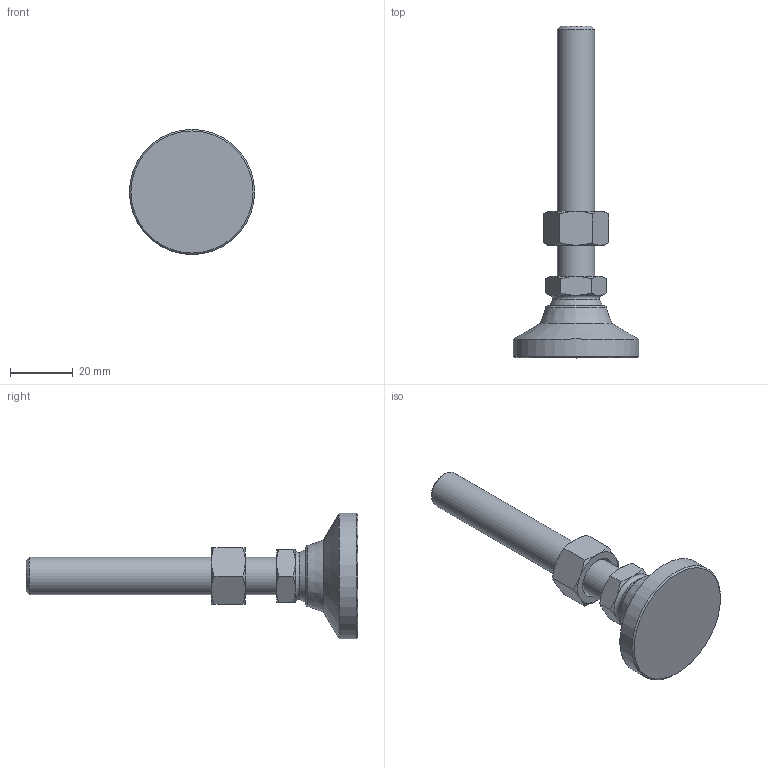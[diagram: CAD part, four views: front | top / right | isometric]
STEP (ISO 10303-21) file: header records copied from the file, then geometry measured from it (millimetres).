
FILE_DESCRIPTION( ( 'STEP AP214' ), ' ' );
FILE_NAME( 'O:/ganter_2015/teil_2/2_5/gn343_2/gn343_2_os/Levelling foot with threaded stud GN 343.2-40-M12-80-OS-(0).stp', '2015-10-26T09:07:31', ( '' ), ( '' ), ' ', 'PARTsolutions', ' ' );
FILE_SCHEMA( ( 'AUTOMOTIVE_DESIGN { 1 0 10303 214 1 1 1 1 }' ) );
Length unit declared in the file: millimetre
Products named in the file (4): Levelling foot with threaded stud GN 343.2-40-M12-80-OS-(0); _Levelling foot with threaded stud GN 343.2-40-M12-80-OS-(0)_foot; _Levelling foot with threaded stud GN 343.2-40-M12-80-OS-(0)_screw; _Stainless Steel-Levelling feet GN 343.2-40-M12-80-OS-(0)_nut
Assembly tree (3 placements, depth 2):
  Levelling foot with threaded stud GN 343.2-40-M12-80-OS-(0)
    _Levelling foot with threaded stud GN 343.2-40-M12-80-OS-(0)_foot
    _Levelling foot with threaded stud GN 343.2-40-M12-80-OS-(0)_screw
    _Stainless Steel-Levelling feet GN 343.2-40-M12-80-OS-(0)_nut
Bounding box: 40 x 106 x 40 mm (x, y, z)
Volume: 26740.9 mm3; surface area: 9770.8 mm2
Topology: 3 solids, 3 shells, 55 faces, 116 edges, 67 vertices
Faces by surface type: cone 30, plane 18, cylinder 3, torus 2, sphere 2
Full cylindrical faces by diameter (mm): 10.106 x1, 12 x1, 40 x1
Entity records: 2038 total; most frequent: CARTESIAN_POINT 495, DIRECTION 208, ORIENTED_EDGE 198, EDGE_CURVE 99, AXIS2_PLACEMENT_3D 98, EDGE_LOOP 70, VERTEX_POINT 65, FACE_OUTER_BOUND 60
